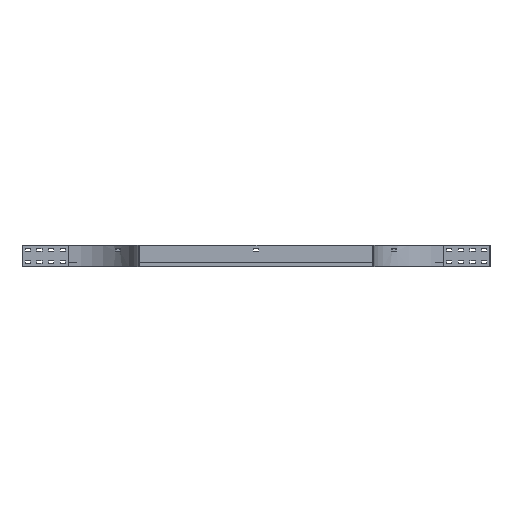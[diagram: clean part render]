
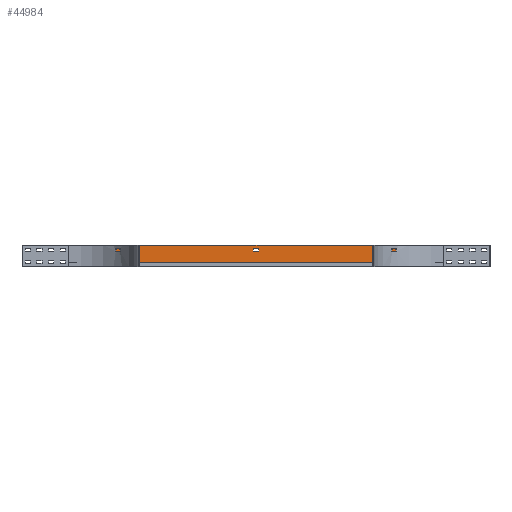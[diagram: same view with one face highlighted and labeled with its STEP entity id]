
A CAD part, front view. The second image highlights one B-rep face of the part: STEP entity #44984.
In plain terms, the highlighted planar face has unit normal (0, -1, 0).
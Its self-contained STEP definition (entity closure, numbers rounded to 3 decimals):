
#2002=FACE_BOUND('',#9306,.T.);
#6192=FACE_OUTER_BOUND('',#9305,.T.);
#9305=EDGE_LOOP('',(#41445,#41446,#41447,#41448));
#9306=EDGE_LOOP('',(#41449,#41450,#41451,#41452));
#13648=LINE('',#100921,#18060);
#13650=LINE('',#100927,#18062);
#13653=LINE('',#100932,#18065);
#13660=LINE('',#100945,#18072);
#13661=LINE('',#100949,#18073);
#13662=LINE('',#100951,#18074);
#13663=LINE('',#100953,#18075);
#13664=LINE('',#100954,#18076);
#18060=VECTOR('',#58936,304.8);
#18062=VECTOR('',#58940,304.8);
#18065=VECTOR('',#58945,304.8);
#18072=VECTOR('',#58956,304.8);
#18073=VECTOR('',#58959,304.8);
#18074=VECTOR('',#58960,304.8);
#18075=VECTOR('',#58961,304.8);
#18076=VECTOR('',#58962,304.8);
#22373=VERTEX_POINT('',#100914);
#22376=VERTEX_POINT('',#100919);
#22378=VERTEX_POINT('',#100924);
#22379=VERTEX_POINT('',#100926);
#22385=VERTEX_POINT('',#100947);
#22386=VERTEX_POINT('',#100948);
#22387=VERTEX_POINT('',#100950);
#22388=VERTEX_POINT('',#100952);
#28740=EDGE_CURVE('',#22376,#22373,#13648,.T.);
#28742=EDGE_CURVE('',#22378,#22379,#13650,.T.);
#28745=EDGE_CURVE('',#22373,#22378,#13653,.T.);
#28752=EDGE_CURVE('',#22379,#22376,#13660,.T.);
#28753=EDGE_CURVE('',#22385,#22386,#13661,.T.);
#28754=EDGE_CURVE('',#22386,#22387,#13662,.T.);
#28755=EDGE_CURVE('',#22387,#22388,#13663,.T.);
#28756=EDGE_CURVE('',#22388,#22385,#13664,.T.);
#41445=ORIENTED_EDGE('',*,*,#28740,.F.);
#41446=ORIENTED_EDGE('',*,*,#28752,.F.);
#41447=ORIENTED_EDGE('',*,*,#28742,.F.);
#41448=ORIENTED_EDGE('',*,*,#28745,.F.);
#41449=ORIENTED_EDGE('',*,*,#28753,.T.);
#41450=ORIENTED_EDGE('',*,*,#28754,.T.);
#41451=ORIENTED_EDGE('',*,*,#28755,.T.);
#41452=ORIENTED_EDGE('',*,*,#28756,.T.);
#42816=PLANE('',#48230);
#44984=ADVANCED_FACE('',(#6192,#2002),#42816,.T.);
#48230=AXIS2_PLACEMENT_3D('',#100946,#58957,#58958);
#58936=DIRECTION('',(0.,0.,1.));
#58940=DIRECTION('',(0.,0.,-1.));
#58945=DIRECTION('',(1.,0.,0.));
#58956=DIRECTION('',(-1.,0.,0.));
#58957=DIRECTION('center_axis',(0.,-1.,0.));
#58958=DIRECTION('ref_axis',(1.,0.,0.));
#58959=DIRECTION('',(-1.,0.,0.));
#58960=DIRECTION('',(0.,0.,1.));
#58961=DIRECTION('',(1.,0.,0.));
#58962=DIRECTION('',(0.,0.,-1.));
#100914=CARTESIAN_POINT('',(-805.5,502.5,47.));
#100919=CARTESIAN_POINT('',(-805.5,502.5,-47.));
#100921=CARTESIAN_POINT('',(-805.5,502.5,-47.));
#100924=CARTESIAN_POINT('',(805.5,502.5,47.));
#100926=CARTESIAN_POINT('',(805.5,502.5,-47.));
#100927=CARTESIAN_POINT('',(805.5,502.5,47.));
#100932=CARTESIAN_POINT('',(-805.5,502.5,47.));
#100945=CARTESIAN_POINT('',(-805.5,502.5,-47.));
#100946=CARTESIAN_POINT('Origin',(-805.5,502.5,-47.));
#100947=CARTESIAN_POINT('',(12.5,502.5,20.46));
#100948=CARTESIAN_POINT('',(-12.5,502.5,20.46));
#100949=CARTESIAN_POINT('',(12.5,502.5,20.46));
#100950=CARTESIAN_POINT('',(-12.5,502.5,31.46));
#100951=CARTESIAN_POINT('',(-12.5,502.5,20.46));
#100952=CARTESIAN_POINT('',(12.5,502.5,31.46));
#100953=CARTESIAN_POINT('',(-12.5,502.5,31.46));
#100954=CARTESIAN_POINT('',(12.5,502.5,31.46));
